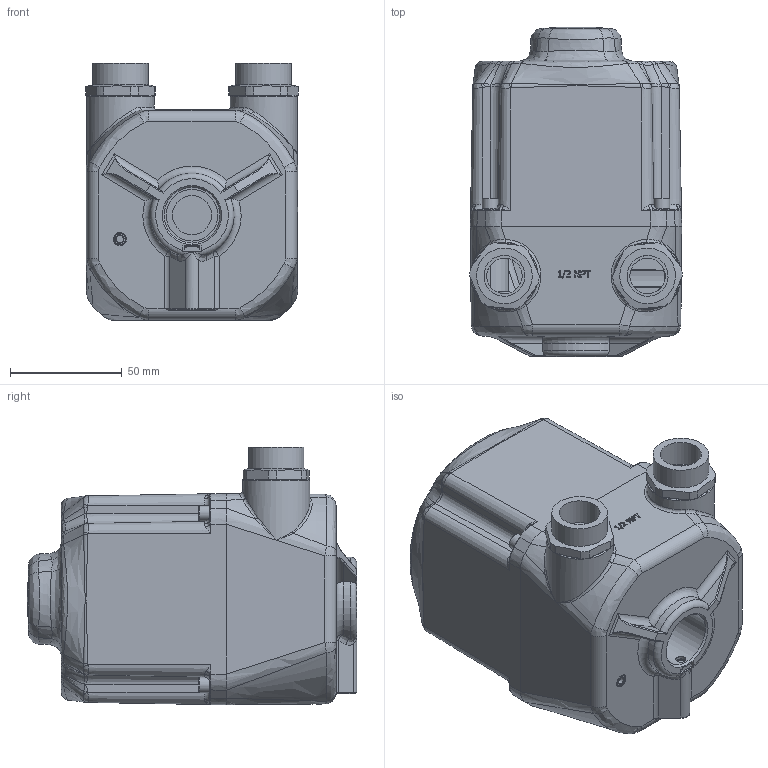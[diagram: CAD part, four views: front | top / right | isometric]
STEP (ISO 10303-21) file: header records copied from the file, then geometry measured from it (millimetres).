
FILE_DESCRIPTION(/* description */ ('HOUSING, PRISM, SILVER, 7/8"-9 CONDUIT THREADS'),/* implementation_level */ '2;1');
FILE_NAME(/* name */ 'C:\vault\Engineering Documents\Work In Progress\BKunz\Platform STP files\Updated with conduits\PM Tall Updated STP.stp',/* time_stamp */ '2017-08-02T15:42:59-05:00',/* author */ ('ffmkunzbob'),/* organization */ (''),/* preprocessor_version */ 'ST-DEVELOPER v16.1',/* originating_system */ 'Autodesk Inventor 2016',/* authorisation */ '');
FILE_SCHEMA (('AUTOMOTIVE_DESIGN { 1 0 10303 214 3 1 1 }'));
Products named in the file (15): 401409; 409109; 401410; 428051; 428082; 408945; 428093; 409154; 409100; 428074; 408944; PM Housing Marked Conduits  401614; 402163; 408290; PM Tall Updated STP
Assembly tree (27 placements, depth 4):
  PM Tall Updated STP
    PM Housing Marked Conduits  401614
      401410
        401409
        409109
      428051  x4
      428082
      408945  x2
      428093  x6
      409154
      409100  x2
      428074
      408944
    402163
    408290  x4
Bounding box: 95.01 x 147.14 x 115.21 mm (x, y, z)
Volume: 332151 mm3; surface area: 159351 mm2
Topology: 25 solids, 25 shells, 1688 faces, 4037 edges, 2518 vertices
Faces by surface type: plane 622, cylinder 467, bspline 327, cone 220, torus 47, sphere 5
Full cylindrical faces by diameter (mm): 1.397 x3, 1.524 x1, 2.007 x3, 2.032 x2, 2.159 x8, 2.235 x4, 2.54 x1, 2.616 x4, 2.642 x9, 3.175 x2, 3.2 x4, 3.251 x6, 3.378 x16, 3.441 x40, 3.505 x4, 3.581 x9, 3.683 x8, 4 x42, 4.343 x2, 4.369 x16, 4.445 x6, 4.648 x1, 4.775 x2, 4.928 x1, 4.953 x1, 5.232 x4, 5.283 x4, 5.334 x3, 5.537 x4, 5.791 x1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
Entity records: 65072 total; most frequent: CARTESIAN_POINT 34102, ORIENTED_EDGE 6354, DIRECTION 5528, EDGE_CURVE 3177, VERTEX_POINT 2178, AXIS2_PLACEMENT_3D 2073, EDGE_LOOP 1929, FACE_OUTER_BOUND 1438
